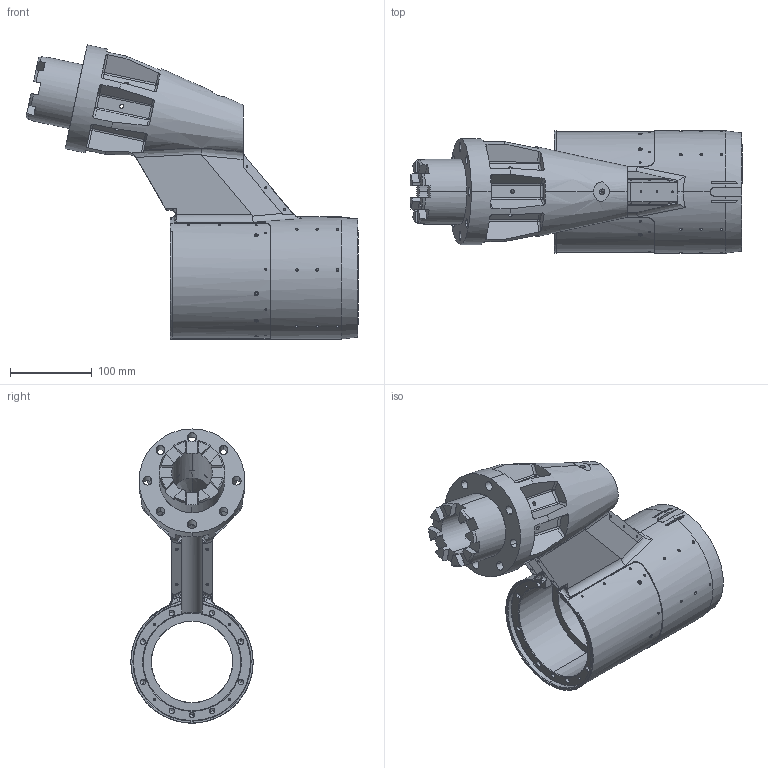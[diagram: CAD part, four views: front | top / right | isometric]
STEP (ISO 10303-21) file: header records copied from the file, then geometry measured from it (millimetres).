
FILE_DESCRIPTION(('CATIA V5 STEP Exchange','CAx-IF Rec.Pracs.--- Model Styling and Organization---1.5--- 2016-08-15','CAx-IF Rec.Pracs.---Supplemental Geometry---1.0---2011-11-01','CAx-IF Rec.Pracs.--- Composite Materials ---1.1---2010-07-15'),'2;1');
FILE_NAME('W:\8-25-003 RENOVATION DEBITMETRE PHI100 A S3\CATIA\Etude\S3MA-8-25003-1001--_DARD-N-00853.stp','2026-02-06T10:08:47+00:00',('none'),('none'),'CATIA Version 5-6 Release 2020 SP6 HF13','CATIA V5 STEP AP214 v2','none');
FILE_SCHEMA(('AUTOMOTIVE_DESIGN { 1 0 10303 214 1 1 1 1 }'));
Length unit declared in the file: millimetre
Products named in the file (1): S3MA-8-25003-1001--_DARD-N-00853
Bounding box: 407.24 x 150 x 360.84 mm (x, y, z)
Volume: 3674056.4 mm3; surface area: 406707.8 mm2
Topology: 1 solids, 1 shells, 908 faces, 2324 edges, 1292 vertices
Faces by surface type: cylinder 425, cone 257, plane 124, bspline 52, sphere 28, torus 22
Entity records: 30916 total; most frequent: CARTESIAN_POINT 12198, ORIENTED_EDGE 4220, DIRECTION 2722, EDGE_CURVE 2110, VERTEX_POINT 1292, AXIS2_PLACEMENT_3D 1262, EDGE_LOOP 1048, VECTOR 914
